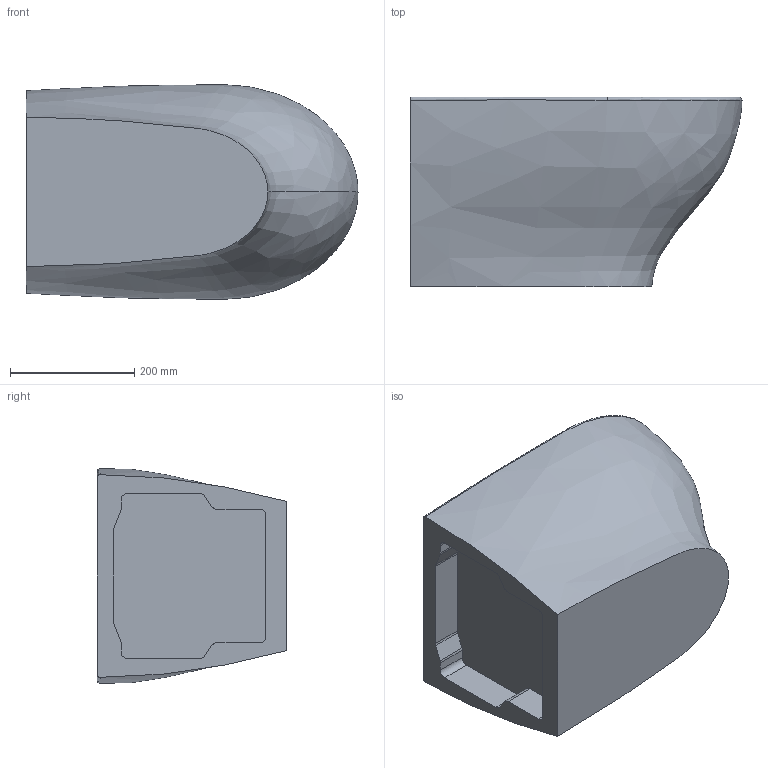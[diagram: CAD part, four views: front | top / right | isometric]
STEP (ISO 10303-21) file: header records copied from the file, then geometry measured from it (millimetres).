
FILE_DESCRIPTION (( 'STEP AP203' ), '1' );
FILE_NAME ('PABIS000000M.STEP', '2022-11-17T15:38:14', ( '' ), ( '' ), 'SwSTEP 2.0', 'SolidWorks 2021', '' );
FILE_SCHEMA (( 'CONFIG_CONTROL_DESIGN' ));
Length unit declared in the file: millimetre
Products named in the file (1): PABIS000000M
Bounding box: 534.05 x 305 x 345.28 mm (x, y, z)
Volume: 27969644 mm3; surface area: 824290.3 mm2
Topology: 1 solids, 1 shells, 52 faces, 138 edges, 92 vertices
Faces by surface type: plane 19, bspline 16, cylinder 14, torus 2, cone 1
Full cylindrical faces by diameter (mm): 35 x1, 46 x1
Entity records: 5931 total; most frequent: CARTESIAN_POINT 4681, ORIENTED_EDGE 262, DIRECTION 212, EDGE_CURVE 131, VERTEX_POINT 90, AXIS2_PLACEMENT_3D 81, EDGE_LOOP 61, FACE_OUTER_BOUND 56
